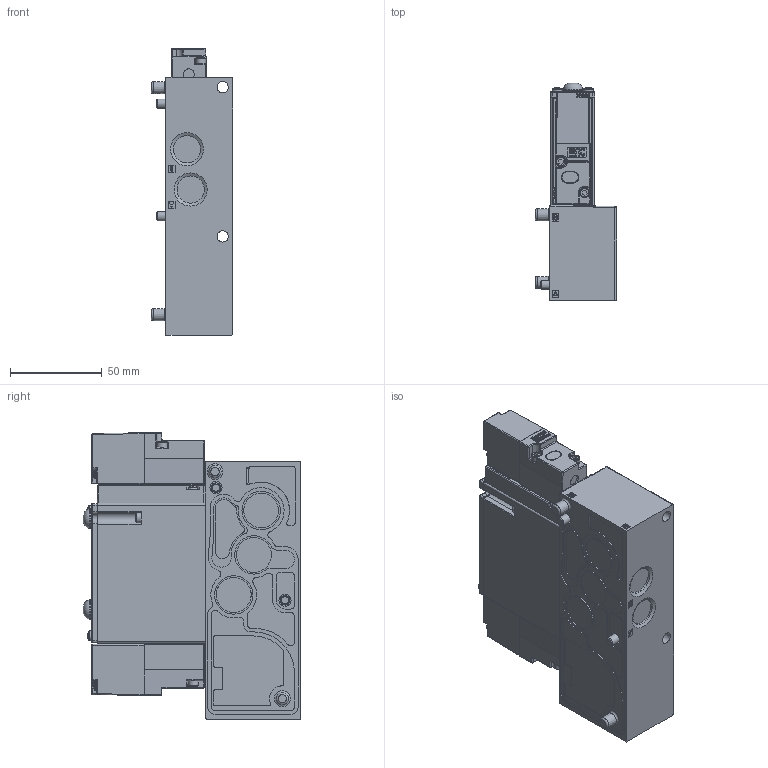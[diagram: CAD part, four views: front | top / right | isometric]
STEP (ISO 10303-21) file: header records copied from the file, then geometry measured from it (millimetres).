
FILE_DESCRIPTION (( 'STEP AP214' ), '1' );
FILE_NAME ('92A-BAA-C4K-DM-DXXP-1DM.STEP', '2019-07-05T15:19:41', ( 'user' ), ( '' ), 'SwSTEP 2.0', 'SolidWorks 2014', '' );
FILE_SCHEMA (( 'AUTOMOTIVE_DESIGN' ));
Length unit declared in the file: millimetre
Products named in the file (6): 92-PILOT-DM3; 92-BODY-BAA; 92-OVERRIDE-1; 92-OPERATOR-DXXP-YDM; 92-BASE-C4J; 92A-BAA-C4K-DM-DXXP-1DM
Assembly tree (8 placements, depth 2):
  92A-BAA-C4K-DM-DXXP-1DM
    92-BASE-C4J
    92-OPERATOR-DXXP-YDM  x2
    92-OVERRIDE-1  x2
    92-BODY-BAA
    92-PILOT-DM3  x2
Bounding box: 44.5 x 118.6 x 156.5 mm (x, y, z)
Volume: 438709.3 mm3; surface area: 92706.7 mm2
Topology: 37 solids, 37 shells, 3002 faces, 7699 edges, 4994 vertices
Faces by surface type: plane 1696, cylinder 815, cone 275, bspline 103, torus 60, sphere 53
Full cylindrical faces by diameter (mm): 0.01 x4, 0.72 x2, 0.85 x2, 0.95 x4, 1 x2, 2 x4, 2.2 x2, 2.4 x6, 2.5 x2, 2.6 x4, 2.7 x2, 2.79 x4, 3 x10, 3.15 x4, 3.25 x4, 3.3 x4, 3.35 x4, 4.775 x4, 5 x4, 5.1 x2, 5.25 x2, 5.5 x10, 5.6 x2, 6.185 x2, 6.22 x2, 6.6 x2, 6.8 x4, 6.92 x2, 7 x2, 8.5 x2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
Entity records: 96762 total; most frequent: CARTESIAN_POINT 16782, DIRECTION 11212, ORIENTED_EDGE 11194, EDGE_CURVE 5597, AXIS2_PLACEMENT_3D 3803, VERTEX_POINT 3759, VECTOR 3606, LINE 3606
